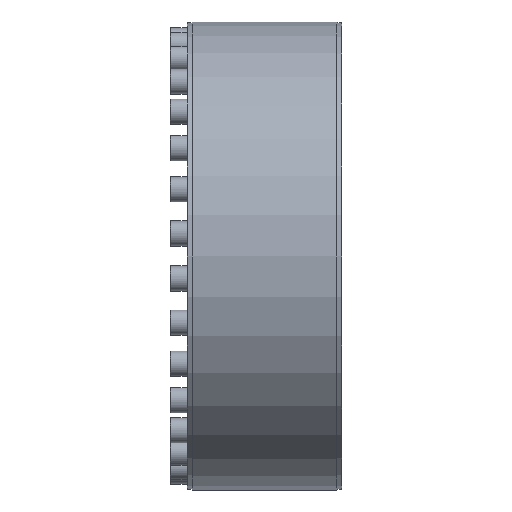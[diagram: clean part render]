
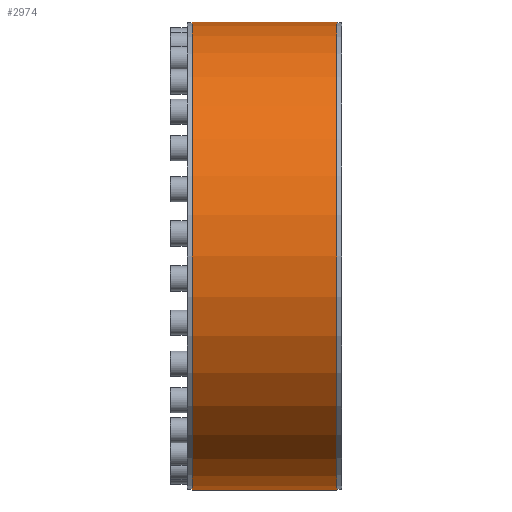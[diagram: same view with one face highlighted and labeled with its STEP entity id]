
A CAD part, left-side view. The second image highlights one B-rep face of the part: STEP entity #2974.
In plain terms, the highlighted cylindrical face has radius 307.5 mm (diameter 615 mm), a partial arc.
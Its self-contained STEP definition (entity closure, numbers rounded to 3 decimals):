
#372 = CARTESIAN_POINT ( 'NONE',  ( 0., 0., 307.5 ) ) ;
#626 = LINE ( 'NONE', #6354, #5760 ) ;
#1438 = FACE_OUTER_BOUND ( 'NONE', #2725, .T. ) ;
#2023 = ORIENTED_EDGE ( 'NONE', *, *, #6928, .T. ) ;
#2294 = CIRCLE ( 'NONE', #6311, 307.5 ) ;
#2725 = EDGE_LOOP ( 'NONE', ( #4227, #2023, #5453, #5556 ) ) ;
#2974 = ADVANCED_FACE ( 'NONE', ( #1438 ), #7976, .T. ) ;
#3260 = VERTEX_POINT ( 'NONE', #9220 ) ;
#3609 = DIRECTION ( 'NONE',  ( 0., 0., -1. ) ) ;
#3694 = CARTESIAN_POINT ( 'NONE',  ( 0., 95., -307.5 ) ) ;
#3852 = VERTEX_POINT ( 'NONE', #5630 ) ;
#4227 = ORIENTED_EDGE ( 'NONE', *, *, #8296, .F. ) ;
#5066 = AXIS2_PLACEMENT_3D ( 'NONE', #8891, #9724, #5697 ) ;
#5110 = VECTOR ( 'NONE', #6096, 1000. ) ;
#5283 = CIRCLE ( 'NONE', #9367, 307.5 ) ;
#5453 = ORIENTED_EDGE ( 'NONE', *, *, #7859, .T. ) ;
#5556 = ORIENTED_EDGE ( 'NONE', *, *, #6401, .F. ) ;
#5630 = CARTESIAN_POINT ( 'NONE',  ( 0., -95., -307.5 ) ) ;
#5697 = DIRECTION ( 'NONE',  ( 0., 0., -1. ) ) ;
#5760 = VECTOR ( 'NONE', #8689, 1000. ) ;
#6096 = DIRECTION ( 'NONE',  ( 0., -1., 0. ) ) ;
#6221 = CARTESIAN_POINT ( 'NONE',  ( 0., -95., 0. ) ) ;
#6311 = AXIS2_PLACEMENT_3D ( 'NONE', #6819, #9281, #9199 ) ;
#6354 = CARTESIAN_POINT ( 'NONE',  ( 0., 0., -307.5 ) ) ;
#6401 = EDGE_CURVE ( 'NONE', #3260, #3852, #5283, .T. ) ;
#6819 = CARTESIAN_POINT ( 'NONE',  ( 0., 95., 0. ) ) ;
#6928 = EDGE_CURVE ( 'NONE', #10062, #10102, #2294, .T. ) ;
#6994 = DIRECTION ( 'NONE',  ( 0., -1., 0. ) ) ;
#7671 = CARTESIAN_POINT ( 'NONE',  ( 0., 95., 307.5 ) ) ;
#7859 = EDGE_CURVE ( 'NONE', #10102, #3852, #626, .T. ) ;
#7976 = CYLINDRICAL_SURFACE ( 'NONE', #5066, 307.5 ) ;
#8296 = EDGE_CURVE ( 'NONE', #10062, #3260, #8555, .T. ) ;
#8555 = LINE ( 'NONE', #372, #5110 ) ;
#8689 = DIRECTION ( 'NONE',  ( 0., -1., 0. ) ) ;
#8891 = CARTESIAN_POINT ( 'NONE',  ( 0., 0., 0. ) ) ;
#9199 = DIRECTION ( 'NONE',  ( 0., 0., -1. ) ) ;
#9220 = CARTESIAN_POINT ( 'NONE',  ( 0., -95., 307.5 ) ) ;
#9281 = DIRECTION ( 'NONE',  ( 0., -1., 0. ) ) ;
#9367 = AXIS2_PLACEMENT_3D ( 'NONE', #6221, #6994, #3609 ) ;
#9724 = DIRECTION ( 'NONE',  ( 0., -1., 0. ) ) ;
#10062 = VERTEX_POINT ( 'NONE', #7671 ) ;
#10102 = VERTEX_POINT ( 'NONE', #3694 ) ;
